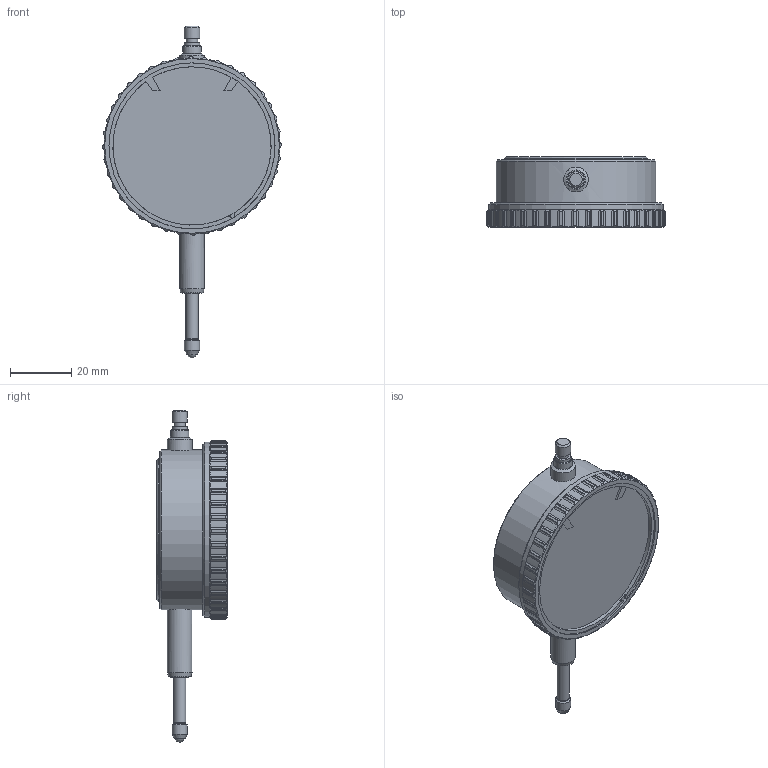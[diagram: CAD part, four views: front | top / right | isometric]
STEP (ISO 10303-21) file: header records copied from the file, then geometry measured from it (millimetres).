
FILE_DESCRIPTION(('STEP AP214'),'1');
FILE_NAME('M3aT.STP','2017-06-30T09:13:15',(' '),(' '),'Spatial InterOp 3D',' ',' ');
FILE_SCHEMA(('AUTOMOTIVE_DESIGN { 1 0 10303 214 1 1 1 1 }'));
Length unit declared in the file: millimetre
Products named in the file (2): M3aT; ASSEM1
Assembly tree (1 placements, depth 2):
  M3aT
    ASSEM1
Bounding box: 58 x 23 x 107.99 mm (x, y, z)
Volume: 50054.7 mm3; surface area: 10359 mm2
Topology: 1 solids, 1 shells, 322 faces, 894 edges, 591 vertices
Faces by surface type: cylinder 184, plane 122, cone 15, sphere 1
Full cylindrical faces by diameter (mm): 3 x3, 3.2 x3, 3.7 x1, 4 x1, 4.9 x1, 5 x2, 6 x1, 8 x2, 46.4 x1, 51.5 x1, 52 x1, 54 x1, 56.9 x1
Entity records: 11176 total; most frequent: CARTESIAN_POINT 3648, ORIENTED_EDGE 1702, DIRECTION 1414, EDGE_CURVE 851, VERTEX_POINT 583, AXIS2_PLACEMENT_3D 561, EDGE_LOOP 374, ADVANCED_FACE 322
